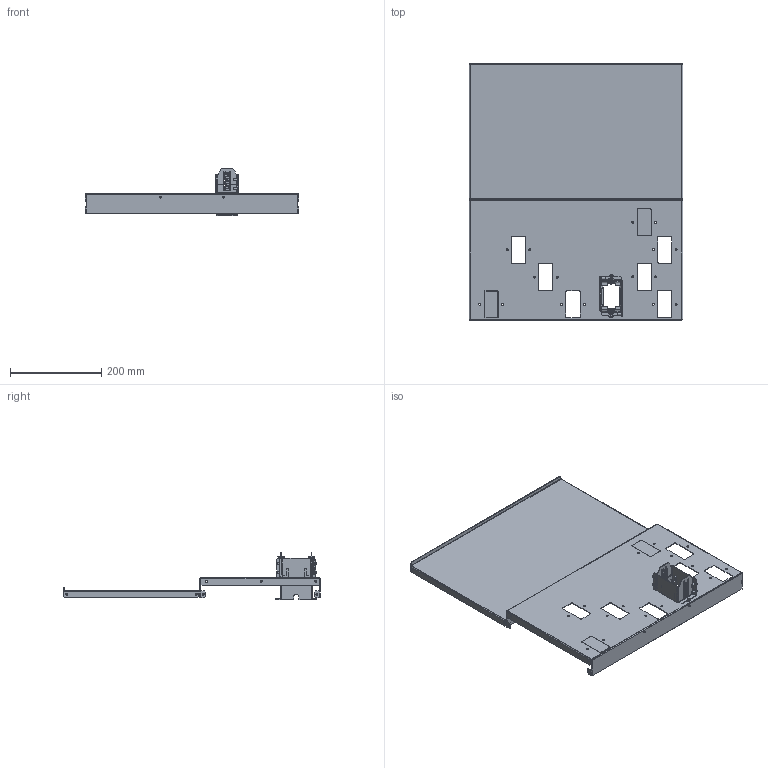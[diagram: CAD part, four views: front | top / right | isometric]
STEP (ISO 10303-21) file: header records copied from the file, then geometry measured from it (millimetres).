
FILE_DESCRIPTION(('CAx-IF Rec.Pracs.---Model Styling and Organization---1.2---2011-12-15','CAx-IF Rec.Pracs.---Geometric and Assembly Validation Properties---4.1---2014-06-16','CAx-IF Rec.Pracs.---PMI Polyline Presentation---2.0---2013-05-24'),'2;1');
FILE_NAME('R5M2W12M1BR66.stp','2021-05-05T12:42:56+03:00',(''),(''),'STEP Interface 4.4 by CT CoreTechnologie','3D_Evolution4.4 by CT CoreTechnologie','');
FILE_SCHEMA(('AUTOMOTIVE_DESIGN { 1 0 10303 214 1 1 1 1 }'));
Length unit declared in the file: millimetre
Products named in the file (9): R5M2W12M1BR66; RB.1765.00.00.0 ÑÁ; RB.1570.00.00.0; RB.1569.00.00.1_-00; RB.1571.00.00.0_In prestressed condition - 40 mm; M5x8-DIN7500C_stright; RB.1506.00.00.0_-07; RB.1507.00.00.0_-04; RB.1567.00.00.0_-00
Assembly tree (14 placements, depth 3):
  R5M2W12M1BR66
    RB.1765.00.00.0 ÑÁ
      RB.1570.00.00.0  x2
      RB.1569.00.00.1_-00  x2
      RB.1571.00.00.0_In prestressed condition - 40 mm  x2
      M5x8-DIN7500C_stright  x4
    RB.1506.00.00.0_-07
    RB.1507.00.00.0_-04
    RB.1567.00.00.0_-00
Bounding box: 470 x 564.2 x 103.8 mm (x, y, z)
Surface area: 699626.6 mm2 (no closed solid volume)
Topology: 0 solids, 22 shells, 766 faces, 2025 edges, 1303 vertices
Faces by surface type: plane 496, cylinder 240, bspline 30
Entity records: 20095 total; most frequent: CARTESIAN_POINT 4741, DIRECTION 3077, ORIENTED_EDGE 3070, EDGE_CURVE 1535, VECTOR 1115, LINE 1115, VERTEX_POINT 985, AXIS2_PLACEMENT_3D 981
